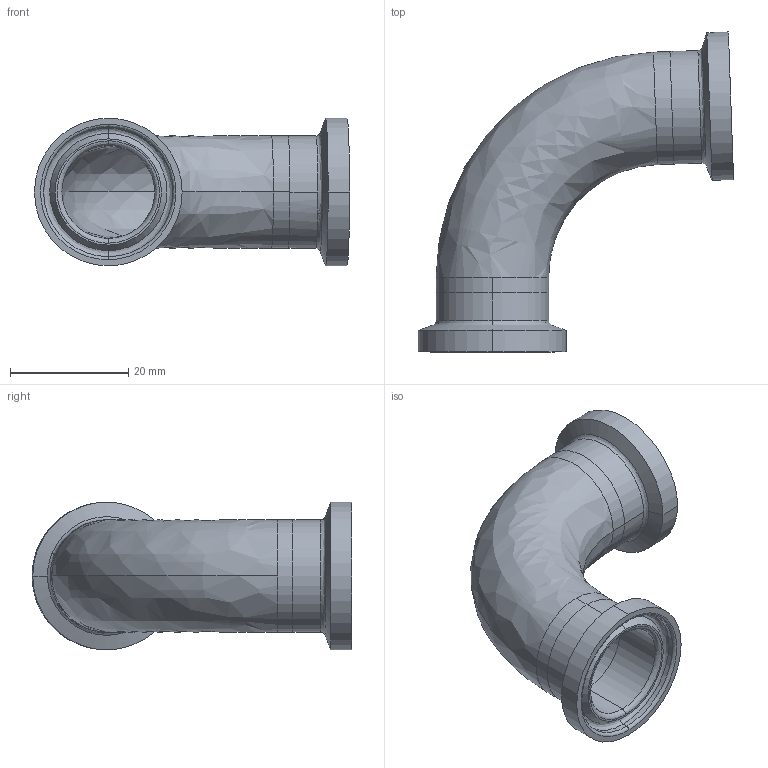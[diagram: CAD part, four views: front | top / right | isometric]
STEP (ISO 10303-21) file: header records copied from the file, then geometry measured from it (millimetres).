
FILE_DESCRIPTION (( 'STEP AP214' ), '1' );
FILE_NAME ('TEG2C886L.75-...STEP', '2016-05-22T08:54:31', ( 'eran' ), ( '' ), 'SwSTEP 2.0', 'SolidWorks 2016', '' );
FILE_SCHEMA (( 'AUTOMOTIVE_DESIGN' ));
Length unit declared in the file: millimetre
Products named in the file (1): TEG2C886L.75-..
Bounding box: 53.32 x 54.15 x 24.99 mm (x, y, z)
Volume: 7420.1 mm3; surface area: 9154.2 mm2
Topology: 3 solids, 3 shells, 60 faces, 136 edges, 84 vertices
Faces by surface type: cylinder 24, bspline 20, plane 8, cone 8
Entity records: 2000 total; most frequent: CARTESIAN_POINT 605, DIRECTION 306, ORIENTED_EDGE 272, AXIS2_PLACEMENT_3D 137, EDGE_CURVE 136, CIRCLE 96, VERTEX_POINT 84, EDGE_LOOP 68
